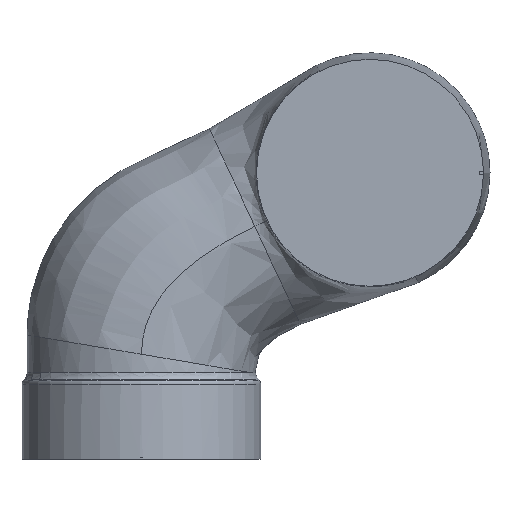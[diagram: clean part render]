
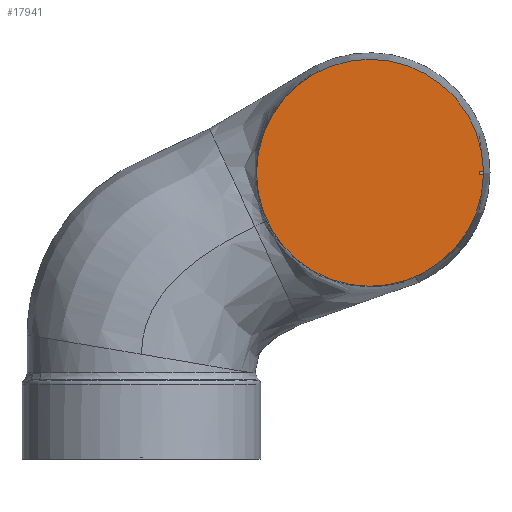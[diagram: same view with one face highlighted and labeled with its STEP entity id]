
A CAD part, front view. The second image highlights one B-rep face of the part: STEP entity #17941.
In plain terms, the highlighted planar face has unit normal (0, -1, 0).
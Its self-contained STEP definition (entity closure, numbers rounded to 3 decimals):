
#1438 = AXIS2_PLACEMENT_3D ( 'NONE', #3464, #7490, #17687 ) ;
#1723 = DIRECTION ( 'NONE',  ( -1., 0., 0. ) ) ;
#2242 = ORIENTED_EDGE ( 'NONE', *, *, #16826, .F. ) ;
#2682 = ORIENTED_EDGE ( 'NONE', *, *, #18616, .T. ) ;
#2989 = FACE_OUTER_BOUND ( 'NONE', #16681, .T. ) ;
#3133 = DIRECTION ( 'NONE',  ( 0., -1., 0. ) ) ;
#3464 = CARTESIAN_POINT ( 'NONE',  ( 180., -98., 382.5 ) ) ;
#3488 = VERTEX_POINT ( 'NONE', #17083 ) ;
#3705 = ORIENTED_EDGE ( 'NONE', *, *, #14903, .T. ) ;
#3815 = ORIENTED_EDGE ( 'NONE', *, *, #11192, .F. ) ;
#4132 = CIRCLE ( 'NONE', #6792, 89.364 ) ;
#4707 = DIRECTION ( 'NONE',  ( 1., 0., 0. ) ) ;
#5309 = CARTESIAN_POINT ( 'NONE',  ( 90.636, -98., 382.5 ) ) ;
#5844 = CARTESIAN_POINT ( 'NONE',  ( 180., -98., 382.5 ) ) ;
#6792 = AXIS2_PLACEMENT_3D ( 'NONE', #8561, #10024, #16402 ) ;
#6846 = VERTEX_POINT ( 'NONE', #13628 ) ;
#6881 = DIRECTION ( 'NONE',  ( 1., 0., 0. ) ) ;
#7490 = DIRECTION ( 'NONE',  ( 0., -1., 0. ) ) ;
#7604 = CARTESIAN_POINT ( 'NONE',  ( 180., -98., 382.5 ) ) ;
#7705 = PLANE ( 'NONE',  #9130 ) ;
#8202 = CIRCLE ( 'NONE', #16909, 89.364 ) ;
#8235 = EDGE_CURVE ( 'NONE', #11445, #9982, #8202, .T. ) ;
#8447 = LINE ( 'NONE', #15141, #14546 ) ;
#8561 = CARTESIAN_POINT ( 'NONE',  ( 180., -98., 382.5 ) ) ;
#9130 = AXIS2_PLACEMENT_3D ( 'NONE', #7604, #10746, #10645 ) ;
#9982 = VERTEX_POINT ( 'NONE', #10094 ) ;
#10024 = DIRECTION ( 'NONE',  ( 0., -1., 0. ) ) ;
#10094 = CARTESIAN_POINT ( 'NONE',  ( 269.353, -98., 381.1 ) ) ;
#10484 = VECTOR ( 'NONE', #1723, 1000. ) ;
#10645 = DIRECTION ( 'NONE',  ( 1., 0., 0. ) ) ;
#10649 = CARTESIAN_POINT ( 'NONE',  ( 266., -98., 382.5 ) ) ;
#10746 = DIRECTION ( 'NONE',  ( 0., -1., 0. ) ) ;
#10994 = CARTESIAN_POINT ( 'NONE',  ( 180., -98., 382.5 ) ) ;
#11192 = EDGE_CURVE ( 'NONE', #3488, #9982, #8447, .T. ) ;
#11445 = VERTEX_POINT ( 'NONE', #5309 ) ;
#11921 = DIRECTION ( 'NONE',  ( 1., 0., 0. ) ) ;
#12130 = CIRCLE ( 'NONE', #14117, 86. ) ;
#12466 = CIRCLE ( 'NONE', #1438, 86. ) ;
#12548 = CARTESIAN_POINT ( 'NONE',  ( 269.353, -98., 383.9 ) ) ;
#12911 = VERTEX_POINT ( 'NONE', #12548 ) ;
#13130 = LINE ( 'NONE', #19302, #10484 ) ;
#13628 = CARTESIAN_POINT ( 'NONE',  ( 265.989, -98., 383.9 ) ) ;
#14117 = AXIS2_PLACEMENT_3D ( 'NONE', #5844, #15361, #11921 ) ;
#14546 = VECTOR ( 'NONE', #6881, 1000. ) ;
#14897 = ORIENTED_EDGE ( 'NONE', *, *, #17193, .T. ) ;
#14903 = EDGE_CURVE ( 'NONE', #18779, #6846, #12130, .T. ) ;
#15110 = ORIENTED_EDGE ( 'NONE', *, *, #8235, .T. ) ;
#15141 = CARTESIAN_POINT ( 'NONE',  ( 180., -98., 381.1 ) ) ;
#15361 = DIRECTION ( 'NONE',  ( 0., -1., 0. ) ) ;
#16402 = DIRECTION ( 'NONE',  ( 1., 0., 0. ) ) ;
#16681 = EDGE_LOOP ( 'NONE', ( #3815, #14897, #3705, #2242, #2682, #15110 ) ) ;
#16826 = EDGE_CURVE ( 'NONE', #12911, #6846, #13130, .T. ) ;
#16909 = AXIS2_PLACEMENT_3D ( 'NONE', #10994, #3133, #4707 ) ;
#17083 = CARTESIAN_POINT ( 'NONE',  ( 265.989, -98., 381.1 ) ) ;
#17193 = EDGE_CURVE ( 'NONE', #3488, #18779, #12466, .T. ) ;
#17687 = DIRECTION ( 'NONE',  ( 1., 0., 0. ) ) ;
#17941 = ADVANCED_FACE ( 'NONE', ( #2989 ), #7705, .T. ) ;
#18616 = EDGE_CURVE ( 'NONE', #12911, #11445, #4132, .T. ) ;
#18779 = VERTEX_POINT ( 'NONE', #10649 ) ;
#19302 = CARTESIAN_POINT ( 'NONE',  ( 180., -98., 383.9 ) ) ;
